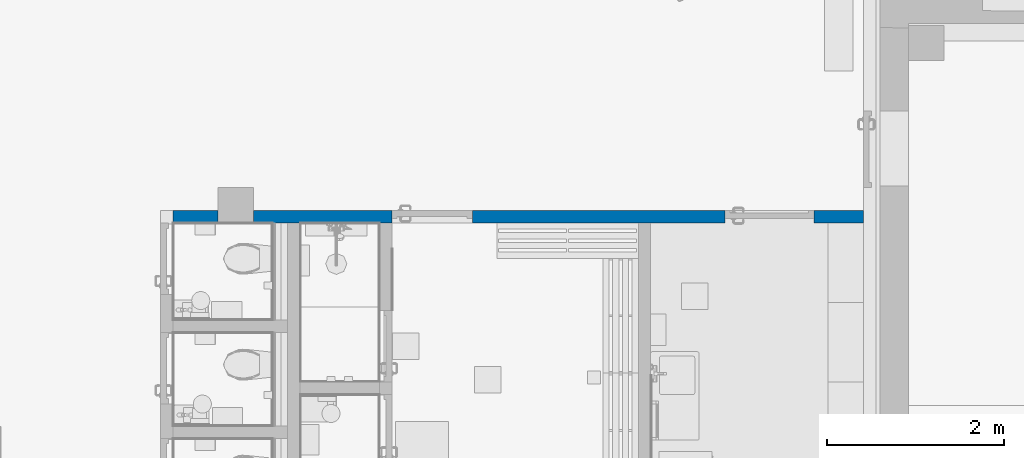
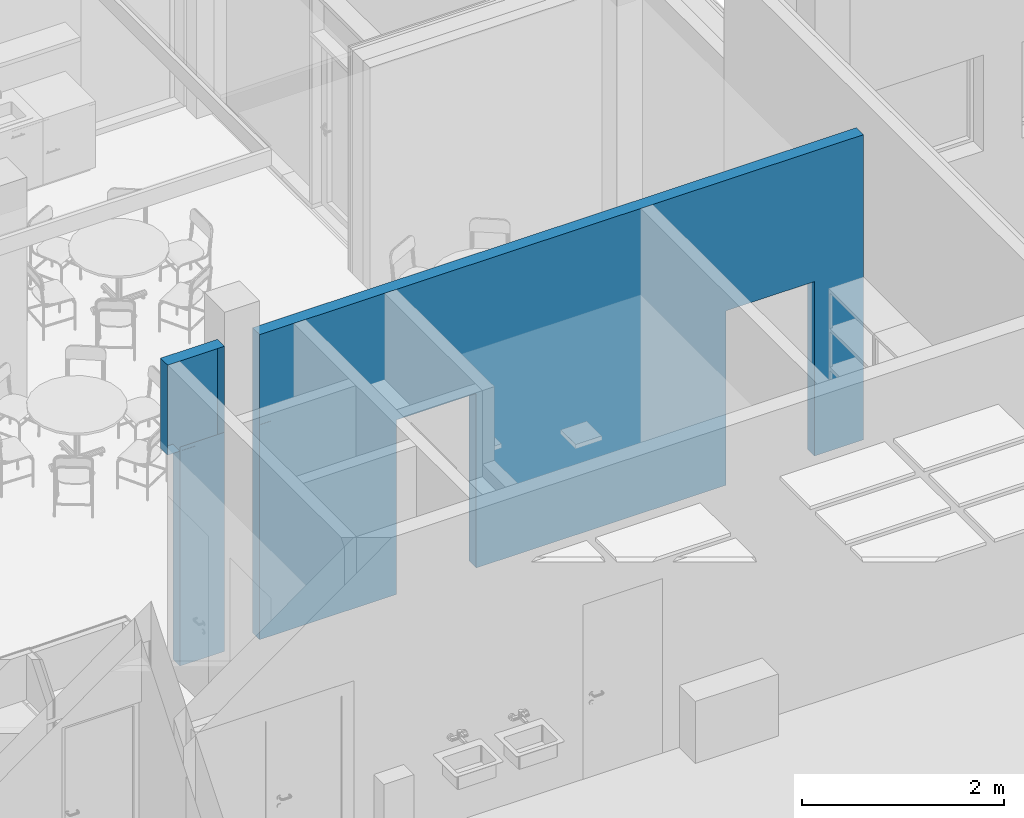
# One storey, part 108 of 301: 1 wall, 2 openings.
"""IFC2X3 building model written with IfcOpenShell, lengths in millimetres."""

from ifc_helpers import new_model, entity, si_unit, converted_unit, derived_unit, money_unit, direction, frame, origin_with_axes, place, context, subcontext, project, spatial, faceted_brep, material, type_object, element, save


model = new_model("IFC2X3")

# Units and contexts
model_context = context("Model", 3, precision=0.01, world=origin_with_axes(), true_north=direction((0.0, 1.0)))
body_context = subcontext(model_context, "Body", "Model", "MODEL_VIEW")
ifc_project = project(units=[si_unit("LENGTHUNIT", "METRE", prefix="MILLI"), si_unit("AREAUNIT", "SQUARE_METRE"), si_unit("VOLUMEUNIT", "CUBIC_METRE"), converted_unit("PLANEANGLEUNIT", "DEGREE", entity("IfcPlaneAngleMeasure", 0.0174532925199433), si_unit("PLANEANGLEUNIT", "RADIAN"), dimensions=[0, 0, 0, 0, 0, 0, 0]), money_unit("EUR"), converted_unit("TIMEUNIT", "Year", entity("IfcTimeMeasure", 31557600.0), si_unit("TIMEUNIT", "SECOND"), dimensions=[0, 0, 1, 0, 0, 0, 0]), si_unit("MASSUNIT", "GRAM", prefix="KILO"), si_unit("THERMODYNAMICTEMPERATUREUNIT", "DEGREE_CELSIUS"), si_unit("LUMINOUSINTENSITYUNIT", "LUMEN"), si_unit("ENERGYUNIT", "JOULE", prefix="MEGA"), derived_unit("THERMALCONDUCTANCEUNIT", [(si_unit("POWERUNIT", "WATT"), 1), (si_unit("LENGTHUNIT", "METRE"), -1), (si_unit("THERMODYNAMICTEMPERATUREUNIT", "KELVIN"), -1)]), derived_unit("SPECIFICHEATCAPACITYUNIT", [(si_unit("ENERGYUNIT", "JOULE"), 1), (si_unit("MASSUNIT", "GRAM", prefix="KILO"), -1), (si_unit("THERMODYNAMICTEMPERATUREUNIT", "KELVIN"), -1)]), derived_unit("MASSDENSITYUNIT", [(si_unit("MASSUNIT", "GRAM", prefix="KILO"), 1), (si_unit("VOLUMEUNIT", "CUBIC_METRE"), -1)])], contexts=[model_context])

# Site, building, storey
site_placement = place(None, frame((0.0, 0.0, 8650.0), z_axis=(0.0, 0.0, 1.0), x_axis=(1.0, 0.0, 0.0)))
site = spatial("IfcSite", under=ifc_project, at=site_placement, Name="43301:001:0844", CompositionType="ELEMENT")
building_placement = place(site_placement, origin_with_axes())
building = spatial("IfcBuilding", under=site, at=building_placement, Name="Kuressaare Ametikooli tuulikute mehaanikute õppekorpus", CompositionType="ELEMENT")
storey_placement = place(building_placement, origin_with_axes())
storey = spatial("IfcBuildingStorey", under=building, at=storey_placement, Name="1.korrus", CompositionType="ELEMENT", Elevation=0.0)

# Wall, openings
ifc_material = material(Name="Betoonõõnesplokk")
wall_type = type_object("IfcWallType", Name="SS-1.2 140", PredefinedType="NOTDEFINED")
wall_placement = place(storey_placement, frame((133024.9464416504, 23574.0689239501, 0.0), z_axis=(0.0, 0.0, 1.0), x_axis=(-1.0, 0.0, 0.0)))
wall = element("IfcWall", 1, at=wall_placement, inside=storey, type_object=wall_type, material=ifc_material, Name="Sisesein", context=body_context, shape_type="Brep", body=[
    faceted_brep([(7959.685995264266, 0.0, 3690.0), (7306.878084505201, 0.0, 3690.0), (7306.878084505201, -140.0000000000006, 3690.0), (7959.686014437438, -140.0000000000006, 3690.0), (7819.685885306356, 0.0, 2650.0), (7306.878084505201, 0.0, 2650.0), (7959.685995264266, 0.0, 2600.0), (7819.685885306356, 0.0, 2600.0), (7819.686199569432, 0.0, 0.0), (7306.878084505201, 0.0, 0.0), (7306.878084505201, 0.0, 2600.0), (7819.685885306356, 0.0, 2600.0), (7306.878084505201, -140.0000000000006, 0.0), (7306.878084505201, -0.4012187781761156, 2650.0), (7306.878084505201, -0.4012187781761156, 2600.0), (7819.686214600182, -140.0000000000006, 0.0), (7819.686214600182, -140.0000000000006, 2600.0), (7959.686014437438, -140.0000000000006, 2600.0), (7819.685885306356, -0.4012187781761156, 2650.0), (7819.685885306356, -0.4012187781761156, 2600.0)], [[[0, 1, 2, 3]], [[4, 5, 1, 0, 6, 7, 8, 9, 10, 11]], [[9, 12, 2, 1, 5, 13, 14, 10]], [[3, 2, 12, 15, 16, 17]], [[17, 6, 0, 3]], [[18, 13, 5, 4]], [[17, 16, 7, 6]], [[16, 15, 8, 7]], [[15, 12, 9, 8]], [[11, 10, 14, 19]], [[19, 18, 4, 11]], [[19, 14, 13, 18]]]),
    faceted_brep([(1569.999999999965, -140.0000000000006, 2110.0), (1569.999999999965, -140.0000000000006, 0.0), (4429.68540104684, -140.0000000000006, 0.0), (4429.68540104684, -140.0000000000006, 2110.0), (5339.685401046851, -140.0000000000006, 2110.0), (5339.685401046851, -140.0000000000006, 0.0), (6906.878084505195, -140.0000000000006, 0.0), (6906.878084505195, -140.0000000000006, 3690.0), (-9.342215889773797e-07, -140.0000000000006, 3690.0), (0.0, -140.0000000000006, 0.0), (559.9999999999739, -140.0000000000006, 0.0), (559.9999999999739, -140.0000000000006, 2110.0), (1569.999999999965, 0.0, 2110.0), (1569.999999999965, 0.0, 0.0), (4429.68540104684, 0.0, 0.0), (4429.68540104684, 0.0, 2110.0), (5339.685401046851, 0.0, 2110.0), (5339.685401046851, 0.0, 0.0), (6906.878084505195, 0.0, 0.0), (6906.878084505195, 0.0, 2600.0), (6906.878084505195, -0.4012187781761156, 2600.0), (6906.878084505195, -0.4012187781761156, 2650.0), (6906.878084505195, 0.0, 2650.0), (6906.878084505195, 0.0, 3690.0), (-9.143263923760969e-07, 0.0, 3690.0), (0.0, 0.0, 0.0), (559.9999999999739, 0.0, 0.0), (559.9999999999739, 0.0, 2110.0), (6689.685885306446, 0.0, 2650.0), (6689.685885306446, 0.0, 2600.0), (6689.685885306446, -0.4012187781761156, 2600.0), (6689.685885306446, -0.4012187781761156, 2650.0)], [[[0, 1, 2, 3, 4, 5, 6, 7, 8, 9, 10, 11]], [[1, 0, 12, 13]], [[1, 13, 14, 2]], [[2, 14, 15, 3]], [[3, 15, 16, 4]], [[4, 16, 17, 5]], [[17, 18, 6, 5]], [[7, 6, 18, 19, 20, 21, 22, 23]], [[23, 24, 8, 7]], [[8, 24, 25, 9]], [[26, 10, 9, 25]], [[11, 10, 26, 27]], [[0, 11, 27, 12]], [[27, 26, 25, 24, 23, 22, 28, 29, 19, 18, 17, 16, 15, 14, 13, 12]], [[19, 29, 30, 20]], [[20, 30, 31, 21]], [[21, 31, 28, 22]], [[29, 28, 31, 30]]]),
])
opening_1_placement = place(wall_placement, frame((4884.685401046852, 0.0, 0.0), z_axis=(0.0, 0.0, 1.0), x_axis=(1.0, 0.0, 0.0)))
element("IfcOpeningElement", 2, at=opening_1_placement, cuts=wall, Name="PU9,dB", context=body_context, shape_type="Brep", body=[
    faceted_brep([(454.9999999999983, 1.000000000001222, 2110.0), (454.9999999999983, 1.000000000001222, 0.0), (-455.0000000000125, 1.000000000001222, 0.0), (-455.0000000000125, 1.000000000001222, 2110.0), (454.9999999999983, -141.0000000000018, 2110.0), (454.9999999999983, -141.0000000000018, 0.0), (-455.0000000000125, -141.0000000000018, 0.0), (-455.0000000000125, -141.0000000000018, 2110.0)], [[[0, 1, 2, 3]], [[4, 5, 1, 0]], [[5, 6, 2, 1]], [[6, 7, 3, 2]], [[7, 4, 0, 3]], [[6, 5, 4, 7]]]),
])
opening_2_placement = place(wall_placement, frame((1064.999999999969, 0.0, 0.0), z_axis=(0.0, 0.0, 1.0), x_axis=(1.0, 0.0, 0.0)))
element("IfcOpeningElement", 3, at=opening_2_placement, cuts=wall, Name="PU10", context=body_context, shape_type="Brep", body=[
    faceted_brep([(504.9999999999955, 1.000000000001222, 2110.0), (504.9999999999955, 1.000000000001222, 0.0), (-504.9999999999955, 1.000000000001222, 0.0), (-504.9999999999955, 1.000000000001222, 2110.0), (504.9999999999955, -141.0000000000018, 2110.0), (504.9999999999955, -141.0000000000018, 0.0), (-504.9999999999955, -141.0000000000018, 0.0), (-504.9999999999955, -141.0000000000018, 2110.0)], [[[0, 1, 2, 3]], [[4, 5, 1, 0]], [[5, 6, 2, 1]], [[6, 7, 3, 2]], [[7, 4, 0, 3]], [[6, 5, 4, 7]]]),
])

save(model, "model.ifc")
